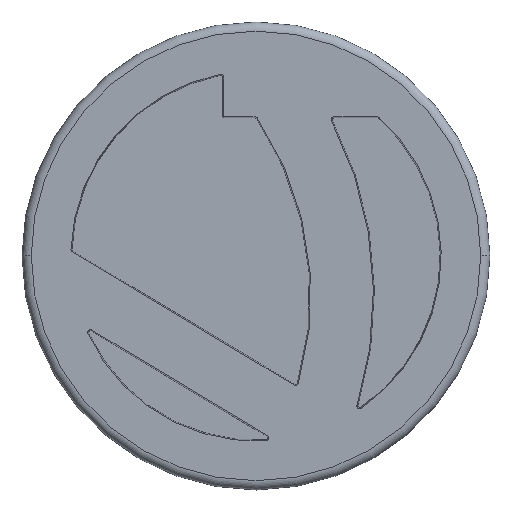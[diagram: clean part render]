
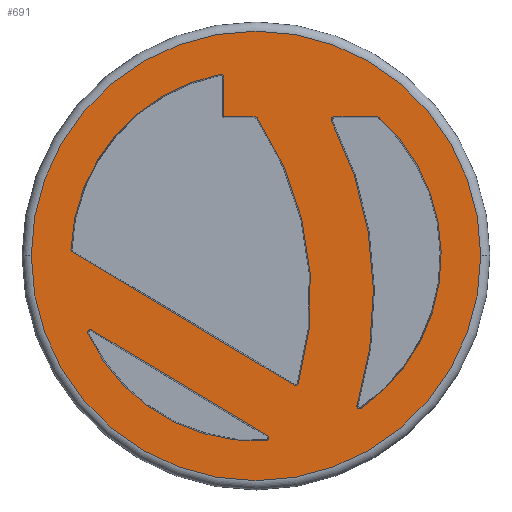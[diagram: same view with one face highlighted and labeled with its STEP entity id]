
A CAD part, top view. The second image highlights one B-rep face of the part: STEP entity #691.
In plain terms, the highlighted planar face has unit normal (0, 0, 1).
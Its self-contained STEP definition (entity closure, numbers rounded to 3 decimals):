
#104=CARTESIAN_POINT('',(0.,0.,1.5));
#105=DIRECTION('',(0.,0.,-1.));
#106=DIRECTION('',(0.664,0.747,0.));
#107=AXIS2_PLACEMENT_3D('',#104,#105,#106);
#121=CARTESIAN_POINT('',(-9.894,0.355,1.5));
#122=DIRECTION('',(0.,0.,-1.));
#123=DIRECTION('',(-0.515,-0.857,0.));
#124=AXIS2_PLACEMENT_3D('',#121,#122,#123);
#134=CARTESIAN_POINT('',(2.147,-6.879,1.5));
#135=DIRECTION('',(0.,0.,-1.));
#136=DIRECTION('',(0.96,-0.279,0.));
#137=AXIS2_PLACEMENT_3D('',#134,#135,#136);
#147=CARTESIAN_POINT('',(-0.053,7.4,1.5));
#148=DIRECTION('',(0.,0.,-1.));
#149=DIRECTION('',(0.,1.,0.));
#150=AXIS2_PLACEMENT_3D('',#147,#148,#149);
#173=CARTESIAN_POINT('',(-1.9,9.716,1.5));
#174=DIRECTION('',(0.,0.,-1.));
#175=DIRECTION('',(-0.192,0.981,0.));
#176=AXIS2_PLACEMENT_3D('',#173,#174,#175);
#178=CARTESIAN_POINT('',(0.,0.,1.5));
#179=DIRECTION('',(0.,0.,1.));
#180=DIRECTION('',(-1.,0.,0.));
#181=AXIS2_PLACEMENT_3D('',#178,#179,#180);
#183=CARTESIAN_POINT('',(0.,0.,1.5));
#184=DIRECTION('',(0.,0.,1.));
#185=DIRECTION('',(1.,0.,0.));
#186=AXIS2_PLACEMENT_3D('',#183,#184,#185);
#188=CARTESIAN_POINT('',(0.,0.,1.5));
#189=DIRECTION('',(0.,0.,-1.));
#190=DIRECTION('',(0.055,-0.998,0.));
#191=AXIS2_PLACEMENT_3D('',#188,#189,#190);
#193=DIRECTION('',(0.857,-0.515,0.));
#194=VECTOR('',#193,11.121);
#195=CARTESIAN_POINT('',(-8.906,-4.027,1.5));
#196=LINE('',#195,#194);
#197=DIRECTION('',(1.,0.,0.));
#198=VECTOR('',#197,2.344);
#199=CARTESIAN_POINT('',(4.232,7.552,1.5));
#200=LINE('',#199,#198);
#201=CARTESIAN_POINT('',(-14.272,-2.1,1.5));
#202=DIRECTION('',(0.,0.,1.));
#203=DIRECTION('',(0.957,-0.29,0.));
#204=AXIS2_PLACEMENT_3D('',#201,#202,#203);
#206=DIRECTION('',(1.,0.,0.));
#207=VECTOR('',#206,1.647);
#208=CARTESIAN_POINT('',(-1.7,7.552,1.5));
#209=LINE('',#208,#207);
#210=CARTESIAN_POINT('',(-1.7,7.6,1.5));
#211=DIRECTION('',(0.,0.,1.));
#212=DIRECTION('',(-1.,0.,0.));
#213=AXIS2_PLACEMENT_3D('',#210,#211,#212);
#215=DIRECTION('',(0.,-1.,0.));
#216=VECTOR('',#215,2.116);
#217=CARTESIAN_POINT('',(-1.748,9.716,1.5));
#218=LINE('',#217,#216);
#219=CARTESIAN_POINT('',(0.,0.,1.5));
#220=DIRECTION('',(0.,0.,-1.));
#221=DIRECTION('',(-0.999,0.036,0.));
#222=AXIS2_PLACEMENT_3D('',#219,#220,#221);
#224=DIRECTION('',(-0.857,0.515,0.));
#225=VECTOR('',#224,14.047);
#226=CARTESIAN_POINT('',(2.068,-7.01,1.5));
#227=LINE('',#226,#225);
#228=CARTESIAN_POINT('',(-14.272,-2.1,1.5));
#229=DIRECTION('',(0.,0.,-1.));
#230=DIRECTION('',(0.831,0.556,0.));
#231=AXIS2_PLACEMENT_3D('',#228,#229,#230);
#271=CARTESIAN_POINT('',(0.548,-9.885,1.5));
#272=DIRECTION('',(0.,0.,-1.));
#273=DIRECTION('',(0.515,0.857,0.));
#274=AXIS2_PLACEMENT_3D('',#271,#272,#273);
#284=CARTESIAN_POINT('',(-8.985,-4.157,1.5));
#285=DIRECTION('',(0.,0.,-1.));
#286=DIRECTION('',(-0.908,-0.42,0.));
#287=AXIS2_PLACEMENT_3D('',#284,#285,#286);
#297=CARTESIAN_POINT('',(6.576,7.4,1.5));
#298=DIRECTION('',(0.,0.,-1.));
#299=DIRECTION('',(0.,1.,0.));
#300=AXIS2_PLACEMENT_3D('',#297,#298,#299);
#302=CARTESIAN_POINT('',(4.232,7.4,1.5));
#303=DIRECTION('',(0.,0.,-1.));
#304=DIRECTION('',(-0.89,-0.457,0.));
#305=AXIS2_PLACEMENT_3D('',#302,#303,#304);
#315=CARTESIAN_POINT('',(5.631,-8.142,1.5));
#316=DIRECTION('',(0.,0.,-1.));
#317=DIRECTION('',(0.569,-0.822,0.));
#318=AXIS2_PLACEMENT_3D('',#315,#316,#317);
#324=CARTESIAN_POINT('',(-12.2,0.,1.5));
#325=CARTESIAN_POINT('',(12.2,0.,1.5));
#326=VERTEX_POINT('',#324);
#327=VERTEX_POINT('',#325);
#344=CARTESIAN_POINT('',(6.678,7.514,1.5));
#345=VERTEX_POINT('',#344);
#348=CARTESIAN_POINT('',(6.576,7.552,1.5));
#349=VERTEX_POINT('',#348);
#351=CARTESIAN_POINT('',(4.232,7.552,1.5));
#353=VERTEX_POINT('',#351);
#356=CARTESIAN_POINT('',(4.097,7.33,1.5));
#357=VERTEX_POINT('',#356);
#359=CARTESIAN_POINT('',(0.073,7.485,1.5));
#361=VERTEX_POINT('',#359);
#364=CARTESIAN_POINT('',(-0.053,7.552,1.5));
#365=VERTEX_POINT('',#364);
#368=CARTESIAN_POINT('',(-1.929,9.866,1.5));
#369=VERTEX_POINT('',#368);
#370=CARTESIAN_POINT('',(-1.748,9.716,1.5));
#371=VERTEX_POINT('',#370);
#374=CARTESIAN_POINT('',(5.718,-8.268,1.5));
#375=VERTEX_POINT('',#374);
#376=CARTESIAN_POINT('',(5.486,-8.098,1.5));
#377=VERTEX_POINT('',#376);
#378=CARTESIAN_POINT('',(0.556,-10.037,1.5));
#379=VERTEX_POINT('',#378);
#382=CARTESIAN_POINT('',(0.626,-9.754,1.5));
#383=VERTEX_POINT('',#382);
#384=CARTESIAN_POINT('',(-10.046,0.361,1.5));
#385=VERTEX_POINT('',#384);
#388=CARTESIAN_POINT('',(-9.972,0.225,1.5));
#389=VERTEX_POINT('',#388);
#392=CARTESIAN_POINT('',(-9.123,-4.221,1.5));
#393=VERTEX_POINT('',#392);
#394=CARTESIAN_POINT('',(-8.906,-4.027,1.5));
#395=VERTEX_POINT('',#394);
#397=CARTESIAN_POINT('',(2.068,-7.01,1.5));
#399=VERTEX_POINT('',#397);
#402=CARTESIAN_POINT('',(2.293,-6.922,1.5));
#403=VERTEX_POINT('',#402);
#404=CARTESIAN_POINT('',(-1.748,7.6,1.5));
#406=VERTEX_POINT('',#404);
#408=CARTESIAN_POINT('',(-1.7,7.552,1.5));
#410=VERTEX_POINT('',#408);
#646=CARTESIAN_POINT('',(0.,0.,1.5));
#647=DIRECTION('',(0.,0.,1.));
#648=DIRECTION('',(1.,0.,0.));
#649=AXIS2_PLACEMENT_3D('',#646,#647,#648);
#650=PLANE('',#649);
#652=ORIENTED_EDGE('',*,*,#651,.F.);
#654=ORIENTED_EDGE('',*,*,#653,.F.);
#655=EDGE_LOOP('',(#652,#654));
#656=FACE_OUTER_BOUND('',#655,.F.);
#657=ORIENTED_EDGE('',*,*,#514,.F.);
#659=ORIENTED_EDGE('',*,*,#658,.F.);
#661=ORIENTED_EDGE('',*,*,#660,.F.);
#663=ORIENTED_EDGE('',*,*,#662,.F.);
#664=EDGE_LOOP('',(#657,#659,#661,#663));
#665=FACE_BOUND('',#664,.F.);
#667=ORIENTED_EDGE('',*,*,#666,.F.);
#669=ORIENTED_EDGE('',*,*,#668,.F.);
#671=ORIENTED_EDGE('',*,*,#670,.F.);
#673=ORIENTED_EDGE('',*,*,#672,.F.);
#674=ORIENTED_EDGE('',*,*,#499,.F.);
#676=ORIENTED_EDGE('',*,*,#675,.F.);
#677=EDGE_LOOP('',(#667,#669,#671,#673,#674,#676));
#678=FACE_BOUND('',#677,.F.);
#679=ORIENTED_EDGE('',*,*,#598,.F.);
#680=ORIENTED_EDGE('',*,*,#612,.F.);
#681=ORIENTED_EDGE('',*,*,#628,.F.);
#682=ORIENTED_EDGE('',*,*,#640,.F.);
#683=ORIENTED_EDGE('',*,*,#484,.F.);
#684=ORIENTED_EDGE('',*,*,#530,.F.);
#685=ORIENTED_EDGE('',*,*,#544,.F.);
#686=ORIENTED_EDGE('',*,*,#558,.F.);
#687=ORIENTED_EDGE('',*,*,#570,.F.);
#688=ORIENTED_EDGE('',*,*,#586,.F.);
#689=EDGE_LOOP('',(#679,#680,#681,#682,#683,#684,#685,#686,#687,#688));
#690=FACE_BOUND('',#689,.F.);
#691=ADVANCED_FACE('',(#656,#665,#678,#690),#650,.T.);
#108=CIRCLE('',#107,10.052);
#125=CIRCLE('',#124,0.152);
#138=CIRCLE('',#137,0.152);
#151=CIRCLE('',#150,0.152);
#177=CIRCLE('',#176,0.152);
#182=CIRCLE('',#181,12.2);
#187=CIRCLE('',#186,12.2);
#192=CIRCLE('',#191,10.052);
#205=CIRCLE('',#204,20.648);
#214=CIRCLE('',#213,0.048);
#223=CIRCLE('',#222,10.052);
#232=CIRCLE('',#231,17.252);
#275=CIRCLE('',#274,0.152);
#288=CIRCLE('',#287,0.152);
#301=CIRCLE('',#300,0.152);
#306=CIRCLE('',#305,0.152);
#319=CIRCLE('',#318,0.152);
#484=EDGE_CURVE('',#385,#369,#223,.T.);
#499=EDGE_CURVE('',#345,#375,#108,.T.);
#514=EDGE_CURVE('',#379,#393,#192,.T.);
#530=EDGE_CURVE('',#389,#385,#125,.T.);
#544=EDGE_CURVE('',#399,#389,#227,.T.);
#558=EDGE_CURVE('',#403,#399,#138,.T.);
#570=EDGE_CURVE('',#361,#403,#232,.T.);
#586=EDGE_CURVE('',#365,#361,#151,.T.);
#598=EDGE_CURVE('',#410,#365,#209,.T.);
#612=EDGE_CURVE('',#406,#410,#214,.T.);
#628=EDGE_CURVE('',#371,#406,#218,.T.);
#640=EDGE_CURVE('',#369,#371,#177,.T.);
#651=EDGE_CURVE('',#326,#327,#182,.T.);
#653=EDGE_CURVE('',#327,#326,#187,.T.);
#658=EDGE_CURVE('',#383,#379,#275,.T.);
#660=EDGE_CURVE('',#395,#383,#196,.T.);
#662=EDGE_CURVE('',#393,#395,#288,.T.);
#666=EDGE_CURVE('',#353,#349,#200,.T.);
#668=EDGE_CURVE('',#357,#353,#306,.T.);
#670=EDGE_CURVE('',#377,#357,#205,.T.);
#672=EDGE_CURVE('',#375,#377,#319,.T.);
#675=EDGE_CURVE('',#349,#345,#301,.T.);
